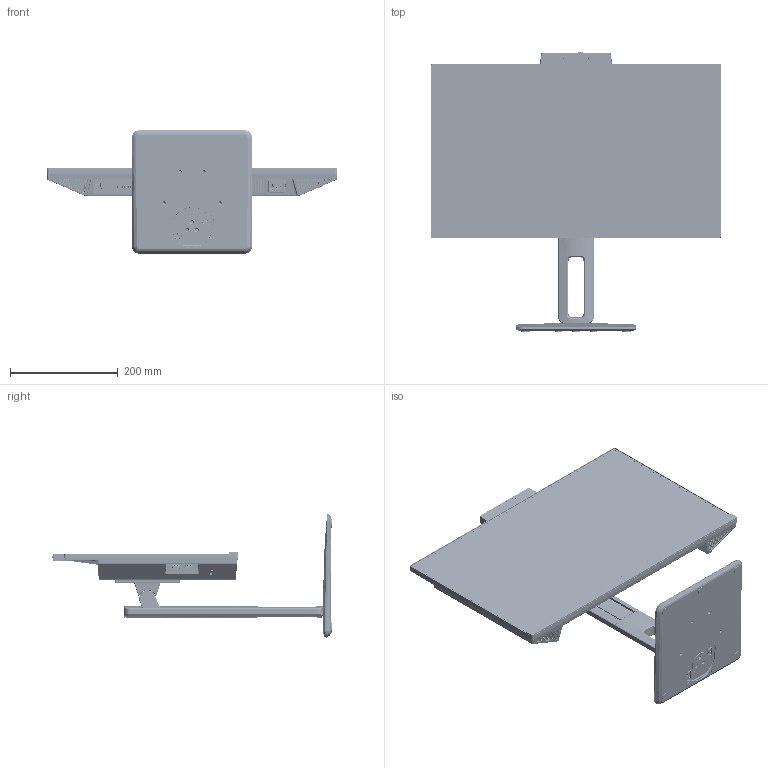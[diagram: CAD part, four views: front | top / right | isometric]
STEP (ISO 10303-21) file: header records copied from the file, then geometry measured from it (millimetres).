
FILE_DESCRIPTION((''),'2;1');
FILE_NAME('998-2946-00_A_PXV2410_ASM','2022-02-08T',('Jimmy.Chen'),(''),'PRO/ENGINEER BY PARAMETRIC TECHNOLOGY CORPORATION, 2017170','PRO/ENGINEER BY PARAMETRIC TECHNOLOGY CORPORATION, 2017170','');
FILE_SCHEMA(('CONFIG_CONTROL_DESIGN'));
Products named in the file (18): 998-2946-00_A-01; 998-2946-00_A-02; 998-2946-00_A-03; 998-2946-00_A-04; 998-2946-00_A-05; 998-2946-00_A-06; 998-2946-00_A-07; 998-2946-00_A-08; 998-2946-00_A-09; 998-2946-00_A-010; 998-2946-00_A-011; 998-2946-00_A-012; 998-2946-00_A-013; 998-2946-00_A-014; 998-2946-00_A-015; 998-2946-00_A-016; 998-2946-00_A-017; 998-2946-00_A_PXV2410_ASM
Assembly tree (18 placements, depth 2):
  998-2946-00_A_PXV2410_ASM
    998-2946-00_A-01
    998-2946-00_A-02
    998-2946-00_A-03
    998-2946-00_A-04
    998-2946-00_A-05
    998-2946-00_A-06
    998-2946-00_A-07
    998-2946-00_A-08
    998-2946-00_A-09
    998-2946-00_A-010
    998-2946-00_A-011  x2
    998-2946-00_A-012
    998-2946-00_A-013
    998-2946-00_A-014
    998-2946-00_A-015
    998-2946-00_A-016
    998-2946-00_A-017
Bounding box: 539.52 x 519.81 x 228.86 mm (x, y, z)
Volume: 1190657.3 mm3; surface area: 1753234.9 mm2
Topology: 24 solids, 66 shells, 27957 faces, 79841 edges, 51856 vertices
Faces by surface type: plane 16614, cylinder 8029, bspline 1820, torus 719, cone 569, extrusion 165, sphere 41
Entity records: 1113556 total; most frequent: CARTESIAN_POINT 286171, ORIENTED_EDGE 158256, DIRECTION 136878, EDGE_CURVE 79128, VECTOR 52888, LINE 52723, VERTEX_POINT 51406, AXIS2_PLACEMENT_3D 41995
